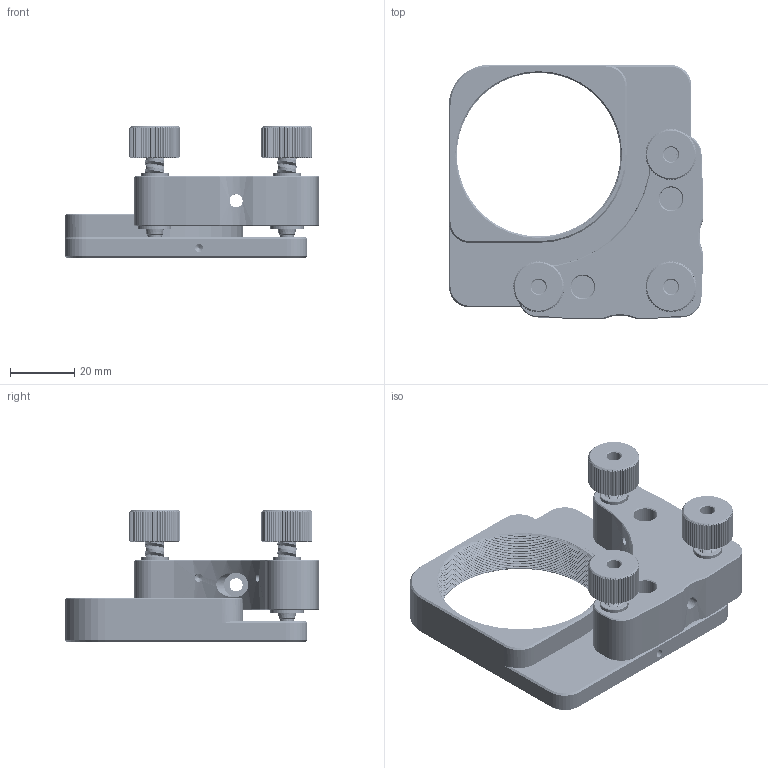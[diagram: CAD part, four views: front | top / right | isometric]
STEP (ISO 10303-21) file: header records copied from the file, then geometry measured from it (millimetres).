
FILE_DESCRIPTION((''),'2;1');
FILE_NAME('TAMH-T2_ASM','2025-08-27T15:28:20',('R&D'),(''),'CREO PARAMETRIC BY PTC INC, 2021063','CREO PARAMETRIC BY PTC INC, 2021063','');
FILE_SCHEMA(('CONFIG_CONTROL_DESIGN'));
Products named in the file (8): TAMH-T2-A2; TAMH-T2-A5; TAMH-T2-A6; TAMH-T2-A9; TAMH-T2-A1-1; TAMH-T2-A1-2; TAMH-T2-A1_ASM; TAMH-T2_ASM
Assembly tree (14 placements, depth 3):
  TAMH-T2_ASM
    TAMH-T2-A1_ASM
      TAMH-T2-A2
      TAMH-T2-A5  x3
      TAMH-T2-A6  x3
      TAMH-T2-A9  x3
      TAMH-T2-A1-1
      TAMH-T2-A1-2  x2
Bounding box: 79.3 x 79.3 x 40.99 mm (x, y, z)
Volume: 59291.1 mm3; surface area: 33217.9 mm2
Topology: 13 solids, 13 shells, 2136 faces, 5817 edges, 3710 vertices
Faces by surface type: cylinder 1125, plane 485, bspline 369, cone 135, sphere 16, torus 6
Entity records: 83335 total; most frequent: CARTESIAN_POINT 63179, ORIENTED_EDGE 4758, DIRECTION 3220, EDGE_CURVE 2379, VERTEX_POINT 1510, AXIS2_PLACEMENT_3D 1140, B_SPLINE_CURVE_WITH_KNOTS 1087, VECTOR 940
